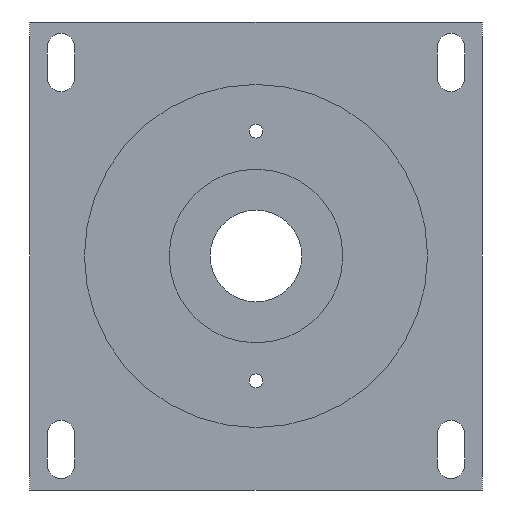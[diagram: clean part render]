
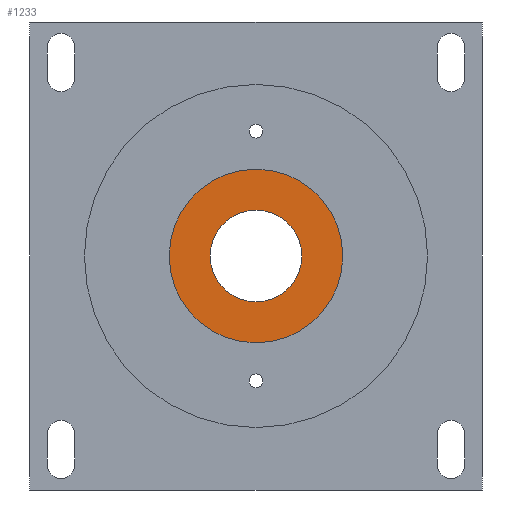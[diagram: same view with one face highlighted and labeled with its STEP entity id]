
A CAD part, front view. The second image highlights one B-rep face of the part: STEP entity #1233.
In plain terms, the highlighted planar face has unit normal (0, -1, 0).
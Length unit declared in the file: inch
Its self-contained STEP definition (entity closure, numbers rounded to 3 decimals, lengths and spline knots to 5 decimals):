
#132 = EDGE_CURVE ( 'NONE', #2807, #1396, #3055, .T. ) ;
#665 = CIRCLE ( 'NONE', #2718, 1.39 ) ;
#872 = AXIS2_PLACEMENT_3D ( 'NONE', #1405, #1348, #1343 ) ;
#886 = CARTESIAN_POINT ( 'NONE',  ( 0.11309, -0.68926, 0.38537 ) ) ;
#1179 = EDGE_CURVE ( 'NONE', #3351, #1441, #4586, .T. ) ;
#1233 = ADVANCED_FACE ( 'NONE', ( #4524, #4464 ), #1430, .F. ) ;
#1247 = DIRECTION ( 'NONE',  ( 1., 0., 0. ) ) ;
#1264 = DIRECTION ( 'NONE',  ( -1., 0., 0. ) ) ;
#1276 = CARTESIAN_POINT ( 'NONE',  ( 0.11309, -0.68926, 0.38537 ) ) ;
#1314 = DIRECTION ( 'NONE',  ( 0., 1., 0. ) ) ;
#1343 = DIRECTION ( 'NONE',  ( 1., 0., 0. ) ) ;
#1348 = DIRECTION ( 'NONE',  ( 0., 1., 0. ) ) ;
#1379 = EDGE_LOOP ( 'NONE', ( #2056, #3074 ) ) ;
#1396 = VERTEX_POINT ( 'NONE', #4883 ) ;
#1405 = CARTESIAN_POINT ( 'NONE',  ( 0.11309, -0.68926, 0.38537 ) ) ;
#1430 = PLANE ( 'NONE',  #872 ) ;
#1441 = VERTEX_POINT ( 'NONE', #3896 ) ;
#1651 = DIRECTION ( 'NONE',  ( -1., 0., 0. ) ) ;
#1672 = DIRECTION ( 'NONE',  ( 0., -1., 0. ) ) ;
#1681 = CARTESIAN_POINT ( 'NONE',  ( 0.11309, -0.68926, 0.38537 ) ) ;
#1743 = EDGE_LOOP ( 'NONE', ( #1916, #2000 ) ) ;
#1753 = AXIS2_PLACEMENT_3D ( 'NONE', #886, #3952, #1264 ) ;
#1916 = ORIENTED_EDGE ( 'NONE', *, *, #3897, .F. ) ;
#2000 = ORIENTED_EDGE ( 'NONE', *, *, #1179, .F. ) ;
#2056 = ORIENTED_EDGE ( 'NONE', *, *, #132, .F. ) ;
#2718 = AXIS2_PLACEMENT_3D ( 'NONE', #1276, #1314, #1247 ) ;
#2807 = VERTEX_POINT ( 'NONE', #3191 ) ;
#2828 = AXIS2_PLACEMENT_3D ( 'NONE', #1681, #1672, #1651 ) ;
#2988 = DIRECTION ( 'NONE',  ( 0., 1., 0. ) ) ;
#3020 = CARTESIAN_POINT ( 'NONE',  ( 0.11309, -0.68926, 0.38537 ) ) ;
#3055 = CIRCLE ( 'NONE', #3253, 1.39 ) ;
#3074 = ORIENTED_EDGE ( 'NONE', *, *, #4196, .F. ) ;
#3191 = CARTESIAN_POINT ( 'NONE',  ( 1.50309, -0.68926, 0.38583 ) ) ;
#3253 = AXIS2_PLACEMENT_3D ( 'NONE', #3020, #2988, #3383 ) ;
#3351 = VERTEX_POINT ( 'NONE', #3496 ) ;
#3383 = DIRECTION ( 'NONE',  ( 1., 0., 0. ) ) ;
#3496 = CARTESIAN_POINT ( 'NONE',  ( 0.84809, -0.68926, 0.38562 ) ) ;
#3811 = CIRCLE ( 'NONE', #1753, 0.735 ) ;
#3896 = CARTESIAN_POINT ( 'NONE',  ( -0.62191, -0.68926, 0.38513 ) ) ;
#3897 = EDGE_CURVE ( 'NONE', #1441, #3351, #3811, .T. ) ;
#3952 = DIRECTION ( 'NONE',  ( 0., -1., 0. ) ) ;
#4196 = EDGE_CURVE ( 'NONE', #1396, #2807, #665, .T. ) ;
#4464 = FACE_OUTER_BOUND ( 'NONE', #1379, .T. ) ;
#4524 = FACE_BOUND ( 'NONE', #1743, .T. ) ;
#4586 = CIRCLE ( 'NONE', #2828, 0.735 ) ;
#4883 = CARTESIAN_POINT ( 'NONE',  ( -1.27691, -0.68926, 0.38491 ) ) ;
